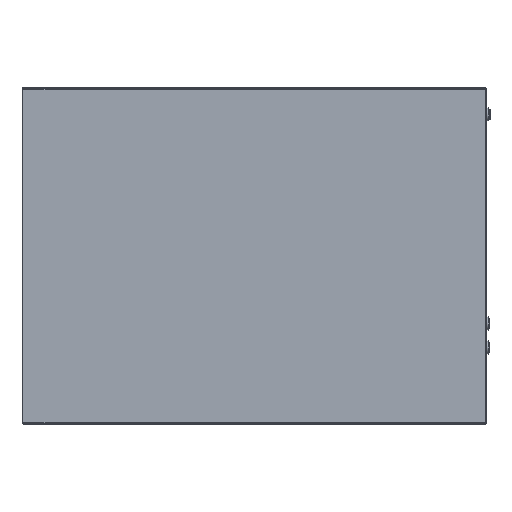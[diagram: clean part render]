
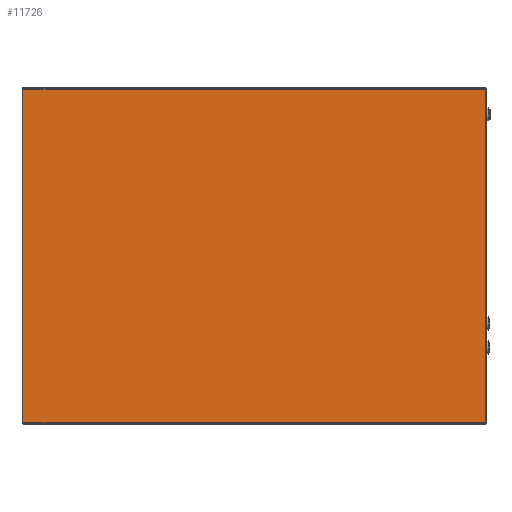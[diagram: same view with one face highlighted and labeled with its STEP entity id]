
A CAD part, front view. The second image highlights one B-rep face of the part: STEP entity #11726.
In plain terms, the highlighted planar face has unit normal (0, -1, 0).
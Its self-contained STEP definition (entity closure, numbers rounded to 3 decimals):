
#379 = VECTOR ( 'NONE', #12399, 1000. ) ;
#391 = LINE ( 'NONE', #12402, #379 ) ;
#1224 = VECTOR ( 'NONE', #32837, 1000. ) ;
#1245 = LINE ( 'NONE', #32824, #1224 ) ;
#1477 = EDGE_LOOP ( 'NONE', ( #38628, #38814, #38622, #38639 ) ) ;
#4781 = AXIS2_PLACEMENT_3D ( 'NONE', #50019, #49601, #49658 ) ;
#11726 = ADVANCED_FACE ( 'NONE', ( #26357 ), #50025, .F. ) ;
#12399 = DIRECTION ( 'NONE',  ( 0., 0., -1. ) ) ;
#12402 = CARTESIAN_POINT ( 'NONE',  ( -481.338, 0., 347.7 ) ) ;
#23616 = EDGE_CURVE ( 'NONE', #41184, #41216, #1245, .T. ) ;
#23819 = EDGE_CURVE ( 'NONE', #41216, #41096, #391, .T. ) ;
#24564 = EDGE_CURVE ( 'NONE', #41120, #41184, #45476, .T. ) ;
#24687 = EDGE_CURVE ( 'NONE', #41096, #41120, #45322, .T. ) ;
#25101 = CARTESIAN_POINT ( 'NONE',  ( -481.338, 0., -346.5 ) ) ;
#25125 = CARTESIAN_POINT ( 'NONE',  ( 481.662, 0., -346.5 ) ) ;
#25189 = CARTESIAN_POINT ( 'NONE',  ( 481.662, 0., 346.5 ) ) ;
#25221 = CARTESIAN_POINT ( 'NONE',  ( -481.338, 0., 346.5 ) ) ;
#26357 = FACE_OUTER_BOUND ( 'NONE', #1477, .T. ) ;
#32824 = CARTESIAN_POINT ( 'NONE',  ( 481.662, 0., 346.5 ) ) ;
#32837 = DIRECTION ( 'NONE',  ( -1., 0., 0. ) ) ;
#33742 = CARTESIAN_POINT ( 'NONE',  ( 481.662, 0., -347.7 ) ) ;
#33743 = DIRECTION ( 'NONE',  ( 0., 0., 1. ) ) ;
#34104 = DIRECTION ( 'NONE',  ( 1., 0., 0. ) ) ;
#34108 = CARTESIAN_POINT ( 'NONE',  ( -481.338, 0., -346.5 ) ) ;
#38622 = ORIENTED_EDGE ( 'NONE', *, *, #23616, .T. ) ;
#38628 = ORIENTED_EDGE ( 'NONE', *, *, #24687, .T. ) ;
#38639 = ORIENTED_EDGE ( 'NONE', *, *, #23819, .T. ) ;
#38814 = ORIENTED_EDGE ( 'NONE', *, *, #24564, .T. ) ;
#41096 = VERTEX_POINT ( 'NONE', #25101 ) ;
#41120 = VERTEX_POINT ( 'NONE', #25125 ) ;
#41184 = VERTEX_POINT ( 'NONE', #25189 ) ;
#41216 = VERTEX_POINT ( 'NONE', #25221 ) ;
#45309 = VECTOR ( 'NONE', #34104, 1000. ) ;
#45322 = LINE ( 'NONE', #34108, #45309 ) ;
#45473 = VECTOR ( 'NONE', #33743, 1000. ) ;
#45476 = LINE ( 'NONE', #33742, #45473 ) ;
#49601 = DIRECTION ( 'NONE',  ( 0., 1., 0. ) ) ;
#49658 = DIRECTION ( 'NONE',  ( 0., 0., -1. ) ) ;
#50019 = CARTESIAN_POINT ( 'NONE',  ( 0.162, 0., 0. ) ) ;
#50025 = PLANE ( 'NONE',  #4781 ) ;
